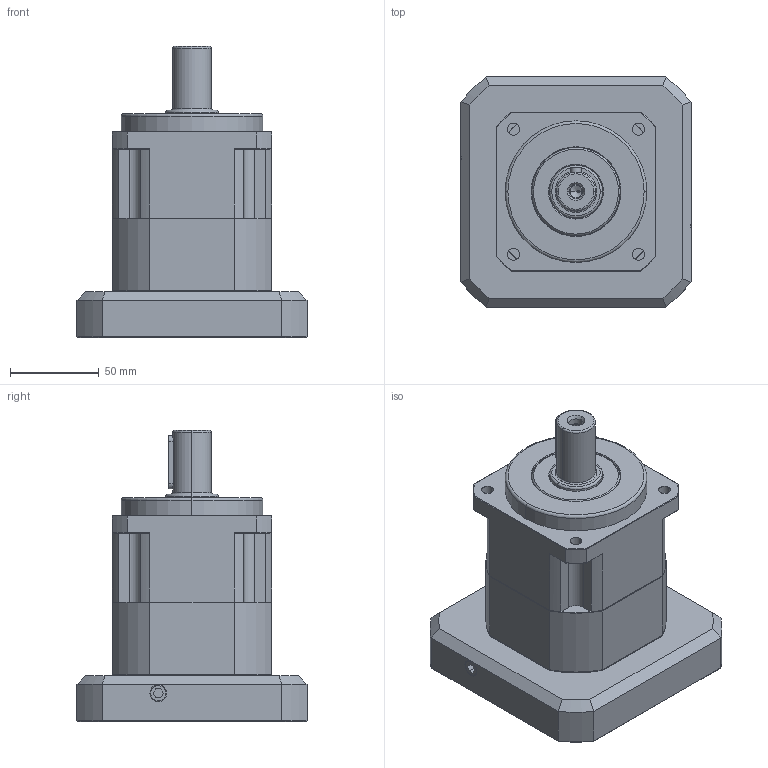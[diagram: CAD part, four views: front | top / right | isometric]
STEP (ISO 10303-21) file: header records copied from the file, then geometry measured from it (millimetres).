
FILE_DESCRIPTION (( 'STEP AP203' ), '1' );
FILE_NAME ('SB90-1-110M8.step', '2022-04-06T02:22:39', ( 'lim' ), ( '' ), 'SwSTEP 2.0', 'SolidWorks 2020', '' );
FILE_SCHEMA (( 'CONFIG_CONTROL_DESIGN' ));
Length unit declared in the file: millimetre
Products named in the file (1): SB90-1-110M8
Bounding box: 130 x 130 x 164.5 mm (x, y, z)
Volume: 778803.5 mm3; surface area: 139727.9 mm2
Topology: 2 solids, 9 shells, 645 faces, 1564 edges, 960 vertices
Faces by surface type: plane 256, cylinder 214, cone 144, torus 29, bspline 2
Entity records: 19411 total; most frequent: CARTESIAN_POINT 3964, DIRECTION 3422, ORIENTED_EDGE 3076, EDGE_CURVE 1538, AXIS2_PLACEMENT_3D 1338, VERTEX_POINT 960, VECTOR 746, LINE 746
